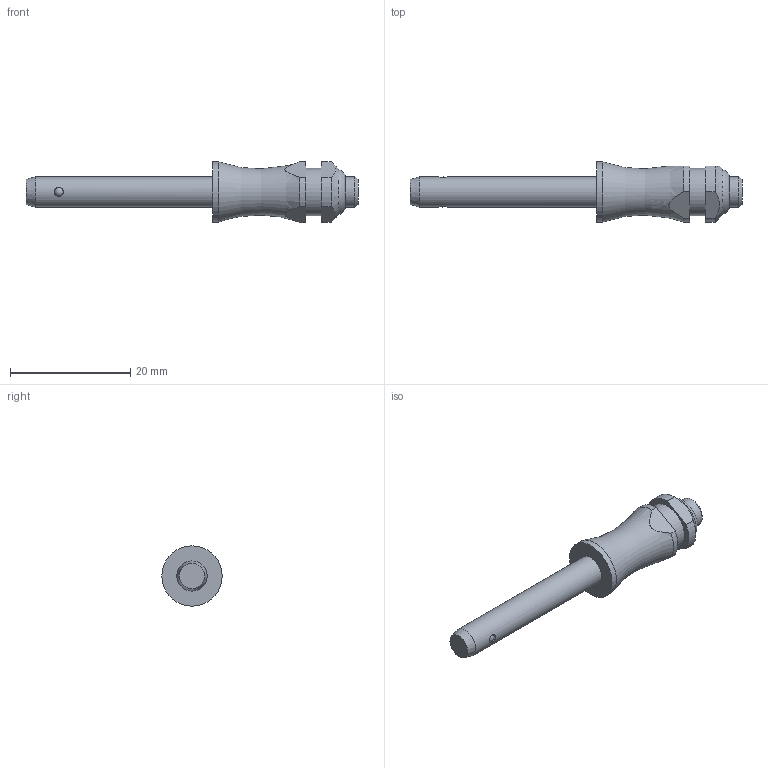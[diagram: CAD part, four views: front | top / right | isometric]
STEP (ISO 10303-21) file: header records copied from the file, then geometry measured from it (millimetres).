
FILE_DESCRIPTION( ( 'STEP AP203' ), '1' );
FILE_NAME( 'C:/Temp/Ganter_Step_05_03_2020/data/3_1/gn113_3/Stainless Steel-Ball lock pin GN 113.3-5-25 (activated).stp', '2020-03-12T08:18:10', ( 'License CC BY-ND 4.0' ), ( 'CADENAS' ), ' ', 'PARTsolutions', ' ' );
FILE_SCHEMA( ( 'CONFIG_CONTROL_DESIGN' ) );
Length unit declared in the file: millimetre
Products named in the file (1): _Stainless Steel-Ball lock pin GN 113.3-5-25 (activated)
Bounding box: 55.15 x 10 x 10 mm (x, y, z)
Volume: 1901.9 mm3; surface area: 1282.2 mm2
Topology: 1 solids, 1 shells, 31 faces, 73 edges, 46 vertices
Faces by surface type: plane 12, cylinder 12, cone 3, torus 2, sphere 2
Full cylindrical faces by diameter (mm): 1.5 x2, 5 x2, 7.9 x1, 10 x1
Entity records: 954 total; most frequent: CARTESIAN_POINT 290, DIRECTION 134, ORIENTED_EDGE 104, AXIS2_PLACEMENT_3D 58, EDGE_CURVE 52, EDGE_LOOP 48, VERTEX_POINT 40, FACE_OUTER_BOUND 39
